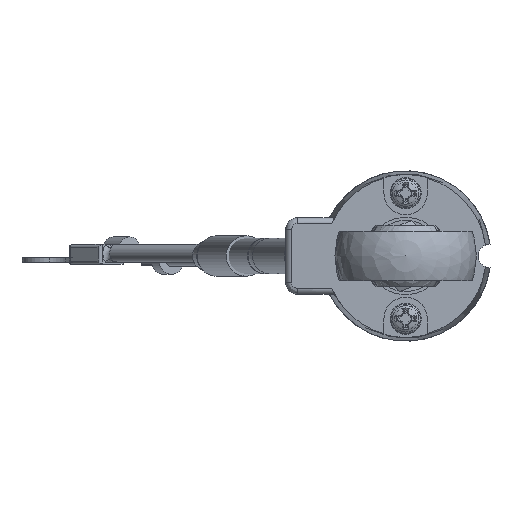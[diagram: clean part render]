
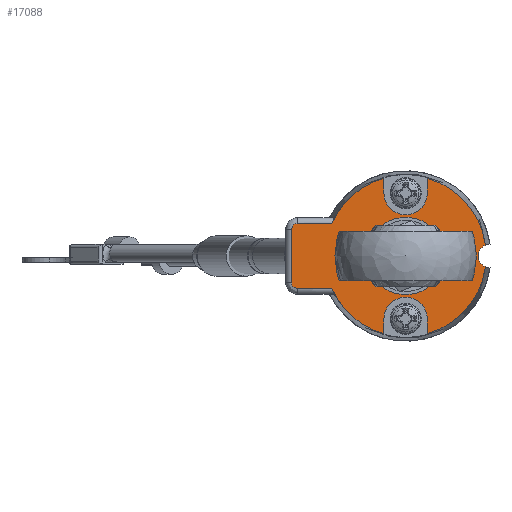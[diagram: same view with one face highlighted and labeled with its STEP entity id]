
A CAD part, left-side view. The second image highlights one B-rep face of the part: STEP entity #17088.
In plain terms, the highlighted planar face has unit normal (-1, 0, 0).
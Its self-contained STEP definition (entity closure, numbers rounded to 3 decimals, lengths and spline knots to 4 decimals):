
#1692=ELLIPSE('',#18349,0.03,0.03);
#1693=ELLIPSE('',#18353,0.03,0.03);
#1726=FACE_BOUND('',#3082,.T.);
#1875=PLANE('',#18355);
#2292=FACE_OUTER_BOUND('',#3081,.T.);
#3081=EDGE_LOOP('',(#11473,#11474,#11475,#11476,#11477,#11478,#11479,#11480,
#11481,#11482,#11483,#11484,#11485,#11486,#11487,#11488));
#3082=EDGE_LOOP('',(#11489));
#3803=LINE('',#25805,#4425);
#3804=LINE('',#25837,#4426);
#3805=LINE('',#25880,#4427);
#3806=LINE('',#25887,#4428);
#3807=LINE('',#25891,#4429);
#3808=LINE('',#25899,#4430);
#3809=LINE('',#25902,#4431);
#4425=VECTOR('',#20461,0.3937);
#4426=VECTOR('',#20470,0.3937);
#4427=VECTOR('',#20477,0.3937);
#4428=VECTOR('',#20484,0.3937);
#4429=VECTOR('',#20487,0.3937);
#4430=VECTOR('',#20494,0.3937);
#4431=VECTOR('',#20497,0.3937);
#5088=CIRCLE('',#18318,0.105);
#5101=CIRCLE('',#18356,0.41);
#5102=CIRCLE('',#18357,0.41);
#5103=CIRCLE('',#18358,0.11);
#5104=CIRCLE('',#18359,0.41);
#5105=CIRCLE('',#18360,0.06);
#5106=CIRCLE('',#18361,0.41);
#5107=CIRCLE('',#18362,0.11);
#5830=VERTEX_POINT('',#25646);
#5853=VERTEX_POINT('',#25789);
#5854=VERTEX_POINT('',#25791);
#5855=VERTEX_POINT('',#25831);
#5856=VERTEX_POINT('',#25835);
#5857=VERTEX_POINT('',#25863);
#5858=VERTEX_POINT('',#25867);
#5859=VERTEX_POINT('',#25882);
#5860=VERTEX_POINT('',#25884);
#5861=VERTEX_POINT('',#25886);
#5862=VERTEX_POINT('',#25888);
#5863=VERTEX_POINT('',#25890);
#5864=VERTEX_POINT('',#25892);
#5865=VERTEX_POINT('',#25894);
#5866=VERTEX_POINT('',#25896);
#5867=VERTEX_POINT('',#25898);
#5868=VERTEX_POINT('',#25900);
#8090=EDGE_CURVE('',#5830,#5830,#5088,.T.);
#8128=EDGE_CURVE('',#5854,#5853,#3803,.T.);
#8130=EDGE_CURVE('',#5853,#5855,#1692,.T.);
#8132=EDGE_CURVE('',#5855,#5856,#3804,.T.);
#8134=EDGE_CURVE('',#5856,#5857,#1693,.T.);
#8136=EDGE_CURVE('',#5857,#5858,#3805,.T.);
#8137=EDGE_CURVE('',#5858,#5859,#5101,.T.);
#8138=EDGE_CURVE('',#5860,#5854,#5102,.T.);
#8139=EDGE_CURVE('',#5860,#5861,#3806,.T.);
#8140=EDGE_CURVE('',#5861,#5862,#5103,.T.);
#8141=EDGE_CURVE('',#5862,#5863,#3807,.T.);
#8142=EDGE_CURVE('',#5864,#5863,#5104,.T.);
#8143=EDGE_CURVE('',#5864,#5865,#5105,.T.);
#8144=EDGE_CURVE('',#5866,#5865,#5106,.T.);
#8145=EDGE_CURVE('',#5866,#5867,#3808,.T.);
#8146=EDGE_CURVE('',#5867,#5868,#5107,.T.);
#8147=EDGE_CURVE('',#5868,#5859,#3809,.T.);
#11473=ORIENTED_EDGE('',*,*,#8137,.F.);
#11474=ORIENTED_EDGE('',*,*,#8136,.F.);
#11475=ORIENTED_EDGE('',*,*,#8134,.F.);
#11476=ORIENTED_EDGE('',*,*,#8132,.F.);
#11477=ORIENTED_EDGE('',*,*,#8130,.F.);
#11478=ORIENTED_EDGE('',*,*,#8128,.F.);
#11479=ORIENTED_EDGE('',*,*,#8138,.F.);
#11480=ORIENTED_EDGE('',*,*,#8139,.T.);
#11481=ORIENTED_EDGE('',*,*,#8140,.T.);
#11482=ORIENTED_EDGE('',*,*,#8141,.T.);
#11483=ORIENTED_EDGE('',*,*,#8142,.F.);
#11484=ORIENTED_EDGE('',*,*,#8143,.T.);
#11485=ORIENTED_EDGE('',*,*,#8144,.F.);
#11486=ORIENTED_EDGE('',*,*,#8145,.T.);
#11487=ORIENTED_EDGE('',*,*,#8146,.T.);
#11488=ORIENTED_EDGE('',*,*,#8147,.T.);
#11489=ORIENTED_EDGE('',*,*,#8090,.T.);
#17088=ADVANCED_FACE('',(#2292,#1726),#1875,.T.);
#18318=AXIS2_PLACEMENT_3D('',#25647,#20386,#20387);
#18349=AXIS2_PLACEMENT_3D('',#25833,#20464,#20465);
#18353=AXIS2_PLACEMENT_3D('',#25865,#20473,#20474);
#18355=AXIS2_PLACEMENT_3D('',#25881,#20478,#20479);
#18356=AXIS2_PLACEMENT_3D('',#25883,#20480,#20481);
#18357=AXIS2_PLACEMENT_3D('',#25885,#20482,#20483);
#18358=AXIS2_PLACEMENT_3D('',#25889,#20485,#20486);
#18359=AXIS2_PLACEMENT_3D('',#25893,#20488,#20489);
#18360=AXIS2_PLACEMENT_3D('',#25895,#20490,#20491);
#18361=AXIS2_PLACEMENT_3D('',#25897,#20492,#20493);
#18362=AXIS2_PLACEMENT_3D('',#25901,#20495,#20496);
#20386=DIRECTION('center_axis',(1.,0.,0.));
#20387=DIRECTION('ref_axis',(0.,0.,1.));
#20461=DIRECTION('',(0.,1.,0.));
#20464=DIRECTION('center_axis',(1.,0.,0.));
#20465=DIRECTION('ref_axis',(0.,0.,
-1.));
#20470=DIRECTION('',(0.,0.,1.));
#20473=DIRECTION('center_axis',(1.,0.,0.));
#20474=DIRECTION('ref_axis',(0.,0.,
1.));
#20477=DIRECTION('',(0.,-1.,0.));
#20478=DIRECTION('center_axis',(-1.,0.,0.));
#20479=DIRECTION('ref_axis',(0.,0.,1.));
#20480=DIRECTION('center_axis',(1.,0.,0.));
#20481=DIRECTION('ref_axis',(0.,1.,0.));
#20482=DIRECTION('center_axis',(1.,0.,0.));
#20483=DIRECTION('ref_axis',(0.,1.,0.));
#20484=DIRECTION('',(0.,0.,1.));
#20485=DIRECTION('center_axis',(1.,0.,0.));
#20486=DIRECTION('ref_axis',(0.,-1.,0.));
#20487=DIRECTION('',(0.,0.,-1.));
#20488=DIRECTION('center_axis',(1.,0.,0.));
#20489=DIRECTION('ref_axis',(0.,1.,0.));
#20490=DIRECTION('center_axis',(1.,0.,0.));
#20491=DIRECTION('ref_axis',(0.,0.,-1.));
#20492=DIRECTION('center_axis',(1.,0.,0.));
#20493=DIRECTION('ref_axis',(0.,1.,0.));
#20494=DIRECTION('',(0.,0.,-1.));
#20495=DIRECTION('center_axis',(1.,0.,0.));
#20496=DIRECTION('ref_axis',(0.,1.,0.));
#20497=DIRECTION('',(0.,0.,1.));
#25646=CARTESIAN_POINT('',(-0.2209,0.,-0.105));
#25647=CARTESIAN_POINT('Origin',(-0.2209,0.,0.));
#25789=CARTESIAN_POINT('',(-0.2209,0.55,-0.1649));
#25791=CARTESIAN_POINT('',(-0.2209,0.3754,-0.1649));
#25805=CARTESIAN_POINT('',(-0.2209,0.2825,-0.1649));
#25831=CARTESIAN_POINT('',(-0.2209,0.58,-0.1349));
#25833=CARTESIAN_POINT('Origin',(-0.2209,0.55,-0.1349));
#25835=CARTESIAN_POINT('',(-0.2209,0.58,0.1349));
#25837=CARTESIAN_POINT('',(-0.2209,0.58,-0.044));
#25863=CARTESIAN_POINT('',(-0.2209,0.55,0.1649));
#25865=CARTESIAN_POINT('Origin',(-0.2209,0.55,0.1349));
#25867=CARTESIAN_POINT('',(-0.2209,0.3754,0.1649));
#25880=CARTESIAN_POINT('',(-0.2209,0.2825,0.1649));
#25881=CARTESIAN_POINT('Origin',(-0.2209,0.205,0.));
#25882=CARTESIAN_POINT('',(-0.2209,0.11,0.395));
#25883=CARTESIAN_POINT('Origin',(-0.2209,0.,0.));
#25884=CARTESIAN_POINT('',(-0.2209,0.11,-0.395));
#25885=CARTESIAN_POINT('Origin',(-0.2209,0.,0.));
#25886=CARTESIAN_POINT('',(-0.2209,0.11,-0.3193));
#25887=CARTESIAN_POINT('',(-0.2209,0.11,-0.1596));
#25888=CARTESIAN_POINT('',(-0.2209,-0.11,-0.3193));
#25889=CARTESIAN_POINT('Origin',(-0.2209,0.,-0.3193));
#25890=CARTESIAN_POINT('',(-0.2209,-0.11,-0.395));
#25891=CARTESIAN_POINT('',(-0.2209,-0.11,-0.2243));
#25892=CARTESIAN_POINT('',(-0.2209,-0.4062,-0.0556));
#25893=CARTESIAN_POINT('Origin',(-0.2209,0.,0.));
#25894=CARTESIAN_POINT('',(-0.2209,-0.4062,0.0556));
#25895=CARTESIAN_POINT('Origin',(-0.2209,-0.4289,0.));
#25896=CARTESIAN_POINT('',(-0.2209,-0.11,0.395));
#25897=CARTESIAN_POINT('Origin',(-0.2209,0.,0.));
#25898=CARTESIAN_POINT('',(-0.2209,-0.11,0.3193));
#25899=CARTESIAN_POINT('',(-0.2209,-0.11,0.1596));
#25900=CARTESIAN_POINT('',(-0.2209,0.11,0.3193));
#25901=CARTESIAN_POINT('Origin',(-0.2209,0.,0.3193));
#25902=CARTESIAN_POINT('',(-0.2209,0.11,0.2243));
